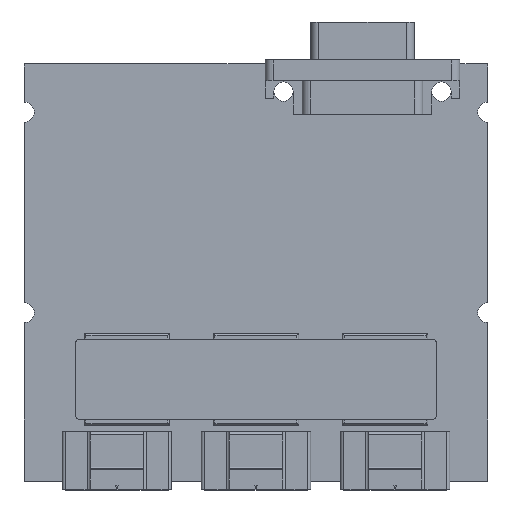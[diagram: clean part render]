
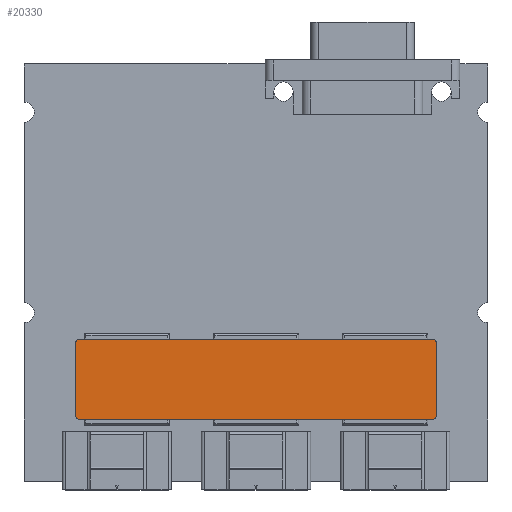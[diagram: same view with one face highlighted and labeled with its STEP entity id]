
A CAD part, top view. The second image highlights one B-rep face of the part: STEP entity #20330.
In plain terms, the highlighted planar face has unit normal (0, 0, 1).
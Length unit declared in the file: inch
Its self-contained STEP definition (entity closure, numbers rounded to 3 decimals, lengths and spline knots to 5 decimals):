
#7539=CARTESIAN_POINT('',(1.1,-0.4405,0.262));
#7540=DIRECTION('',(0.,0.,1.));
#7541=DIRECTION('',(1.,0.,0.));
#7542=AXIS2_PLACEMENT_3D('',#7539,#7540,#7541);
#7544=DIRECTION('',(0.,1.,0.));
#7545=VECTOR('',#7544,0.45);
#7546=CARTESIAN_POINT('',(1.125,-0.8905,0.262));
#7547=LINE('',#7546,#7545);
#7548=CARTESIAN_POINT('',(1.1,-0.8905,0.262));
#7549=DIRECTION('',(0.,0.,1.));
#7550=DIRECTION('',(0.,-1.,0.));
#7551=AXIS2_PLACEMENT_3D('',#7548,#7549,#7550);
#7553=DIRECTION('',(1.,0.,0.));
#7554=VECTOR('',#7553,2.2);
#7555=CARTESIAN_POINT('',(-1.1,-0.9155,0.262));
#7556=LINE('',#7555,#7554);
#7557=CARTESIAN_POINT('',(-1.1,-0.8905,0.262));
#7558=DIRECTION('',(0.,0.,1.));
#7559=DIRECTION('',(-1.,0.,0.));
#7560=AXIS2_PLACEMENT_3D('',#7557,#7558,#7559);
#7562=DIRECTION('',(0.,-1.,0.));
#7563=VECTOR('',#7562,0.45);
#7564=CARTESIAN_POINT('',(-1.125,-0.4405,0.262));
#7565=LINE('',#7564,#7563);
#7566=CARTESIAN_POINT('',(-1.1,-0.4405,0.262));
#7567=DIRECTION('',(0.,0.,1.));
#7568=DIRECTION('',(0.,1.,0.));
#7569=AXIS2_PLACEMENT_3D('',#7566,#7567,#7568);
#7571=DIRECTION('',(-1.,0.,0.));
#7572=VECTOR('',#7571,2.2);
#7573=CARTESIAN_POINT('',(1.1,-0.4155,0.262));
#7574=LINE('',#7573,#7572);
#9892=CARTESIAN_POINT('',(1.125,-0.4405,0.262));
#9893=VERTEX_POINT('',#9892);
#9894=CARTESIAN_POINT('',(1.1,-0.4155,0.262));
#9895=VERTEX_POINT('',#9894);
#9900=CARTESIAN_POINT('',(1.1,-0.9155,0.262));
#9901=VERTEX_POINT('',#9900);
#9902=CARTESIAN_POINT('',(1.125,-0.8905,0.262));
#9903=VERTEX_POINT('',#9902);
#9908=CARTESIAN_POINT('',(-1.125,-0.8905,0.262));
#9909=VERTEX_POINT('',#9908);
#9910=CARTESIAN_POINT('',(-1.1,-0.9155,0.262));
#9911=VERTEX_POINT('',#9910);
#9916=CARTESIAN_POINT('',(-1.1,-0.4155,0.262));
#9917=VERTEX_POINT('',#9916);
#9918=CARTESIAN_POINT('',(-1.125,-0.4405,0.262));
#9919=VERTEX_POINT('',#9918);
#20310=CARTESIAN_POINT('',(0.,-0.6655,0.262));
#20311=DIRECTION('',(0.,0.,1.));
#20312=DIRECTION('',(1.,0.,0.));
#20313=AXIS2_PLACEMENT_3D('',#20310,#20311,#20312);
#20314=PLANE('',#20313);
#20316=ORIENTED_EDGE('',*,*,#20315,.F.);
#20318=ORIENTED_EDGE('',*,*,#20317,.F.);
#20320=ORIENTED_EDGE('',*,*,#20319,.F.);
#20321=ORIENTED_EDGE('',*,*,#20129,.F.);
#20323=ORIENTED_EDGE('',*,*,#20322,.F.);
#20325=ORIENTED_EDGE('',*,*,#20324,.F.);
#20326=ORIENTED_EDGE('',*,*,#20303,.F.);
#20327=ORIENTED_EDGE('',*,*,#20034,.F.);
#20328=EDGE_LOOP('',(#20316,#20318,#20320,#20321,#20323,#20325,#20326,#20327));
#20329=FACE_OUTER_BOUND('',#20328,.F.);
#20330=ADVANCED_FACE('',(#20329),#20314,.T.);
#7543=CIRCLE('',#7542,0.025);
#7552=CIRCLE('',#7551,0.025);
#7561=CIRCLE('',#7560,0.025);
#7570=CIRCLE('',#7569,0.025);
#20034=EDGE_CURVE('',#9895,#9917,#7574,.T.);
#20129=EDGE_CURVE('',#9911,#9901,#7556,.T.);
#20303=EDGE_CURVE('',#9917,#9919,#7570,.T.);
#20315=EDGE_CURVE('',#9893,#9895,#7543,.T.);
#20317=EDGE_CURVE('',#9903,#9893,#7547,.T.);
#20319=EDGE_CURVE('',#9901,#9903,#7552,.T.);
#20322=EDGE_CURVE('',#9909,#9911,#7561,.T.);
#20324=EDGE_CURVE('',#9919,#9909,#7565,.T.);
